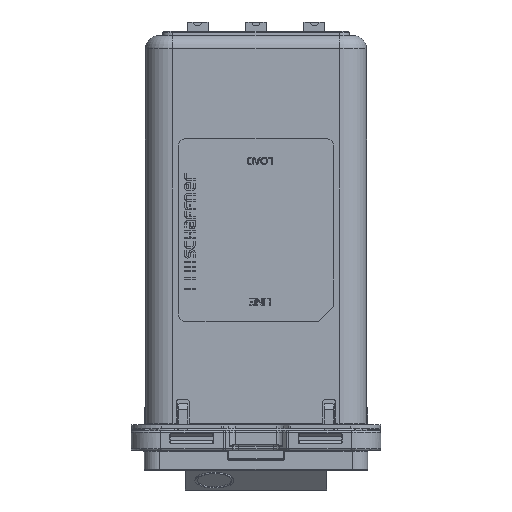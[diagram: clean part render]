
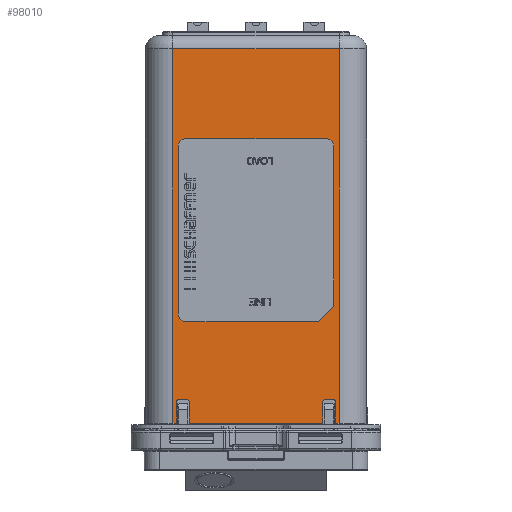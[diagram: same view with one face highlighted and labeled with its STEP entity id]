
A CAD part, top view. The second image highlights one B-rep face of the part: STEP entity #98010.
In plain terms, the highlighted planar face has unit normal (0, 0, 1).
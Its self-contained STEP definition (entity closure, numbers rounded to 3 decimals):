
#340=FACE_BOUND('',#11736,.T.);
#816=CIRCLE('',#102819,1.);
#817=CIRCLE('',#102822,1.);
#818=CIRCLE('',#102827,1.);
#1180=CIRCLE('',#103757,0.2);
#1181=CIRCLE('',#103758,0.2);
#1182=CIRCLE('',#103759,0.2);
#1183=CIRCLE('',#103760,0.2);
#6410=FACE_OUTER_BOUND('',#11735,.T.);
#11735=EDGE_LOOP('',(#64655,#64656,#64657,#64658,#64659,#64660,#64661,#64662,
#64663,#64664,#64665,#64666,#64667,#64668,#64669,#64670));
#11736=EDGE_LOOP('',(#64671,#64672,#64673,#64674,#64675,#64676,#64677,#64678));
#17038=LINE('',#138728,#27117);
#17042=LINE('',#138737,#27121);
#17045=LINE('',#138745,#27124);
#17047=LINE('',#138749,#27126);
#17049=LINE('',#138753,#27128);
#18053=LINE('',#142898,#28132);
#18054=LINE('',#142904,#28133);
#18055=LINE('',#142906,#28134);
#18056=LINE('',#142908,#28135);
#18057=LINE('',#142912,#28136);
#18058=LINE('',#142916,#28137);
#18059=LINE('',#142917,#28138);
#18060=LINE('',#142919,#28139);
#18061=LINE('',#142921,#28140);
#18062=LINE('',#142923,#28141);
#18063=LINE('',#142925,#28142);
#18064=LINE('',#142929,#28143);
#27117=VECTOR('',#111493,10.);
#27121=VECTOR('',#111503,10.);
#27124=VECTOR('',#111512,10.);
#27126=VECTOR('',#111516,10.);
#27128=VECTOR('',#111520,10.);
#28132=VECTOR('',#114380,48.1);
#28133=VECTOR('',#114387,2.8);
#28134=VECTOR('',#114388,17.2);
#28135=VECTOR('',#114389,2.8);
#28136=VECTOR('',#114392,1.2);
#28137=VECTOR('',#114395,2.8);
#28138=VECTOR('',#114396,0.5);
#28139=VECTOR('',#114397,21.4);
#28140=VECTOR('',#114398,48.1);
#28141=VECTOR('',#114399,0.5);
#28142=VECTOR('',#114400,2.8);
#28143=VECTOR('',#114403,1.2);
#37891=VERTEX_POINT('',#138726);
#37892=VERTEX_POINT('',#138727);
#37893=VERTEX_POINT('',#138732);
#37894=VERTEX_POINT('',#138736);
#37895=VERTEX_POINT('',#138740);
#37896=VERTEX_POINT('',#138744);
#37897=VERTEX_POINT('',#138748);
#37898=VERTEX_POINT('',#138752);
#39037=VERTEX_POINT('',#142896);
#39038=VERTEX_POINT('',#142897);
#39039=VERTEX_POINT('',#142902);
#39040=VERTEX_POINT('',#142903);
#39041=VERTEX_POINT('',#142905);
#39042=VERTEX_POINT('',#142907);
#39043=VERTEX_POINT('',#142909);
#39044=VERTEX_POINT('',#142911);
#39045=VERTEX_POINT('',#142913);
#39046=VERTEX_POINT('',#142915);
#39047=VERTEX_POINT('',#142918);
#39048=VERTEX_POINT('',#142920);
#39049=VERTEX_POINT('',#142922);
#39050=VERTEX_POINT('',#142924);
#39051=VERTEX_POINT('',#142926);
#39052=VERTEX_POINT('',#142928);
#47105=EDGE_CURVE('',#37891,#37892,#17038,.T.);
#47108=EDGE_CURVE('',#37892,#37893,#816,.T.);
#47110=EDGE_CURVE('',#37893,#37894,#17042,.T.);
#47112=EDGE_CURVE('',#37894,#37895,#817,.T.);
#47114=EDGE_CURVE('',#37895,#37896,#17045,.T.);
#47116=EDGE_CURVE('',#37896,#37897,#17047,.T.);
#47118=EDGE_CURVE('',#37897,#37898,#17049,.T.);
#47120=EDGE_CURVE('',#37898,#37891,#818,.T.);
#48708=EDGE_CURVE('',#39037,#39038,#18053,.T.);
#48711=EDGE_CURVE('',#39039,#39040,#18054,.T.);
#48712=EDGE_CURVE('',#39039,#39041,#18055,.T.);
#48713=EDGE_CURVE('',#39042,#39041,#18056,.T.);
#48714=EDGE_CURVE('',#39043,#39042,#1180,.T.);
#48715=EDGE_CURVE('',#39043,#39044,#18057,.T.);
#48716=EDGE_CURVE('',#39045,#39044,#1181,.T.);
#48717=EDGE_CURVE('',#39046,#39045,#18058,.T.);
#48718=EDGE_CURVE('',#39046,#39038,#18059,.T.);
#48719=EDGE_CURVE('',#39037,#39047,#18060,.T.);
#48720=EDGE_CURVE('',#39047,#39048,#18061,.T.);
#48721=EDGE_CURVE('',#39048,#39049,#18062,.T.);
#48722=EDGE_CURVE('',#39050,#39049,#18063,.T.);
#48723=EDGE_CURVE('',#39051,#39050,#1182,.T.);
#48724=EDGE_CURVE('',#39051,#39052,#18064,.T.);
#48725=EDGE_CURVE('',#39040,#39052,#1183,.T.);
#64655=ORIENTED_EDGE('',*,*,#48711,.F.);
#64656=ORIENTED_EDGE('',*,*,#48712,.T.);
#64657=ORIENTED_EDGE('',*,*,#48713,.F.);
#64658=ORIENTED_EDGE('',*,*,#48714,.F.);
#64659=ORIENTED_EDGE('',*,*,#48715,.T.);
#64660=ORIENTED_EDGE('',*,*,#48716,.F.);
#64661=ORIENTED_EDGE('',*,*,#48717,.F.);
#64662=ORIENTED_EDGE('',*,*,#48718,.T.);
#64663=ORIENTED_EDGE('',*,*,#48708,.F.);
#64664=ORIENTED_EDGE('',*,*,#48719,.T.);
#64665=ORIENTED_EDGE('',*,*,#48720,.T.);
#64666=ORIENTED_EDGE('',*,*,#48721,.T.);
#64667=ORIENTED_EDGE('',*,*,#48722,.F.);
#64668=ORIENTED_EDGE('',*,*,#48723,.F.);
#64669=ORIENTED_EDGE('',*,*,#48724,.T.);
#64670=ORIENTED_EDGE('',*,*,#48725,.F.);
#64671=ORIENTED_EDGE('',*,*,#47105,.T.);
#64672=ORIENTED_EDGE('',*,*,#47108,.T.);
#64673=ORIENTED_EDGE('',*,*,#47110,.T.);
#64674=ORIENTED_EDGE('',*,*,#47112,.T.);
#64675=ORIENTED_EDGE('',*,*,#47114,.T.);
#64676=ORIENTED_EDGE('',*,*,#47116,.T.);
#64677=ORIENTED_EDGE('',*,*,#47118,.T.);
#64678=ORIENTED_EDGE('',*,*,#47120,.T.);
#89340=PLANE('',#103756);
#98010=ADVANCED_FACE('',(#6410,#340),#89340,.T.);
#102819=AXIS2_PLACEMENT_3D('',#138733,#111498,#111499);
#102822=AXIS2_PLACEMENT_3D('',#138741,#111507,#111508);
#102827=AXIS2_PLACEMENT_3D('',#138756,#111524,#111525);
#103756=AXIS2_PLACEMENT_3D('',#142901,#114385,#114386);
#103757=AXIS2_PLACEMENT_3D('',#142910,#114390,#114391);
#103758=AXIS2_PLACEMENT_3D('',#142914,#114393,#114394);
#103759=AXIS2_PLACEMENT_3D('',#142927,#114401,#114402);
#103760=AXIS2_PLACEMENT_3D('',#142930,#114404,#114405);
#111493=DIRECTION('',(0.,1.,0.));
#111498=DIRECTION('center_axis',(0.,0.,
-1.));
#111499=DIRECTION('ref_axis',(0.,1.,0.));
#111503=DIRECTION('',(1.,0.,0.));
#111507=DIRECTION('center_axis',(0.,0.,
-1.));
#111508=DIRECTION('ref_axis',(1.,0.,0.));
#111512=DIRECTION('',(0.,-1.,0.));
#111516=DIRECTION('',(-0.707,-0.707,0.));
#111520=DIRECTION('',(-1.,0.,0.));
#111524=DIRECTION('center_axis',(0.,0.,
-1.));
#111525=DIRECTION('ref_axis',(-1.,0.,0.));
#114380=DIRECTION('',(0.,-1.,0.));
#114385=DIRECTION('center_axis',(0.,0.,
1.));
#114386=DIRECTION('ref_axis',(1.,0.,0.));
#114387=DIRECTION('',(0.,1.,0.));
#114388=DIRECTION('',(1.,0.,0.));
#114389=DIRECTION('',(0.,-1.,0.));
#114390=DIRECTION('center_axis',(0.,0.,
1.));
#114391=DIRECTION('ref_axis',(1.,0.,0.));
#114392=DIRECTION('',(1.,0.,0.));
#114393=DIRECTION('center_axis',(0.,0.,
1.));
#114394=DIRECTION('ref_axis',(1.,0.,0.));
#114395=DIRECTION('',(0.,1.,0.));
#114396=DIRECTION('',(1.,0.,0.));
#114397=DIRECTION('',(-1.,0.,0.));
#114398=DIRECTION('',(0.,-1.,0.));
#114399=DIRECTION('',(1.,0.,0.));
#114400=DIRECTION('',(0.,-1.,0.));
#114401=DIRECTION('center_axis',(0.,0.,
1.));
#114402=DIRECTION('ref_axis',(1.,0.,0.));
#114403=DIRECTION('',(1.,0.,0.));
#114404=DIRECTION('center_axis',(0.,0.,
1.));
#114405=DIRECTION('ref_axis',(1.,0.,0.));
#138726=CARTESIAN_POINT('',(-10.,17.739,23.45));
#138727=CARTESIAN_POINT('',(-10.,39.239,23.45));
#138728=CARTESIAN_POINT('',(-10.,46.364,23.45));
#138732=CARTESIAN_POINT('',(-9.,40.239,23.45));
#138733=CARTESIAN_POINT('Origin',(-9.,39.239,23.45));
#138736=CARTESIAN_POINT('',(9.,40.239,23.45));
#138737=CARTESIAN_POINT('',(9.85,40.239,23.45));
#138740=CARTESIAN_POINT('',(10.,39.239,23.45));
#138741=CARTESIAN_POINT('Origin',(9.,39.239,23.45));
#138744=CARTESIAN_POINT('',(10.,18.739,23.45));
#138745=CARTESIAN_POINT('',(10.,36.114,23.45));
#138748=CARTESIAN_POINT('',(8.,16.739,23.45));
#138749=CARTESIAN_POINT('',(17.863,26.602,23.45));
#138752=CARTESIAN_POINT('',(-9.,16.739,23.45));
#138753=CARTESIAN_POINT('',(0.85,16.739,23.45));
#138756=CARTESIAN_POINT('Origin',(-9.,17.739,23.45));
#142896=CARTESIAN_POINT('',(10.7,51.789,23.45));
#142897=CARTESIAN_POINT('',(10.7,3.689,23.45));
#142898=CARTESIAN_POINT('',(10.7,51.789,23.45));
#142901=CARTESIAN_POINT('Origin',(10.7,53.489,23.45));
#142902=CARTESIAN_POINT('',(-8.6,3.689,23.45));
#142903=CARTESIAN_POINT('',(-8.6,6.489,23.45));
#142904=CARTESIAN_POINT('',(-8.6,3.689,23.45));
#142905=CARTESIAN_POINT('',(8.6,3.689,23.45));
#142906=CARTESIAN_POINT('',(-8.6,3.689,23.45));
#142907=CARTESIAN_POINT('',(8.6,6.489,23.45));
#142908=CARTESIAN_POINT('',(8.6,6.489,23.45));
#142909=CARTESIAN_POINT('',(8.8,6.689,23.45));
#142910=CARTESIAN_POINT('Origin',(8.8,6.489,23.45));
#142911=CARTESIAN_POINT('',(10.,6.689,23.45));
#142912=CARTESIAN_POINT('',(8.8,6.689,23.45));
#142913=CARTESIAN_POINT('',(10.2,6.489,23.45));
#142914=CARTESIAN_POINT('Origin',(10.,6.489,23.45));
#142915=CARTESIAN_POINT('',(10.2,3.689,23.45));
#142916=CARTESIAN_POINT('',(10.2,3.689,23.45));
#142917=CARTESIAN_POINT('',(10.2,3.689,23.45));
#142918=CARTESIAN_POINT('',(-10.7,51.789,23.45));
#142919=CARTESIAN_POINT('',(10.7,51.789,23.45));
#142920=CARTESIAN_POINT('',(-10.7,3.689,23.45));
#142921=CARTESIAN_POINT('',(-10.7,51.789,23.45));
#142922=CARTESIAN_POINT('',(-10.2,3.689,23.45));
#142923=CARTESIAN_POINT('',(-10.7,3.689,23.45));
#142924=CARTESIAN_POINT('',(-10.2,6.489,23.45));
#142925=CARTESIAN_POINT('',(-10.2,6.489,23.45));
#142926=CARTESIAN_POINT('',(-10.,6.689,23.45));
#142927=CARTESIAN_POINT('Origin',(-10.,6.489,23.45));
#142928=CARTESIAN_POINT('',(-8.8,6.689,23.45));
#142929=CARTESIAN_POINT('',(-10.,6.689,23.45));
#142930=CARTESIAN_POINT('Origin',(-8.8,6.489,23.45));
